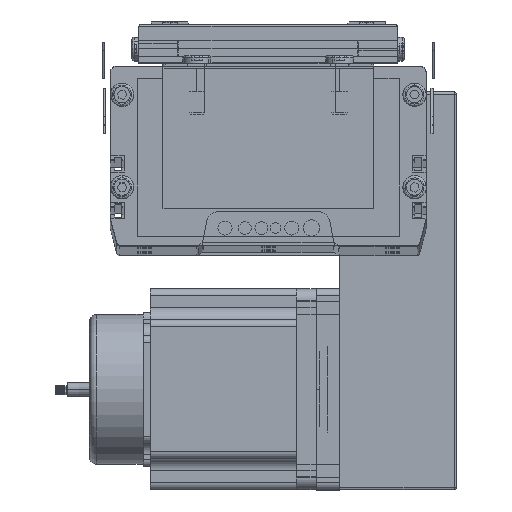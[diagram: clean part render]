
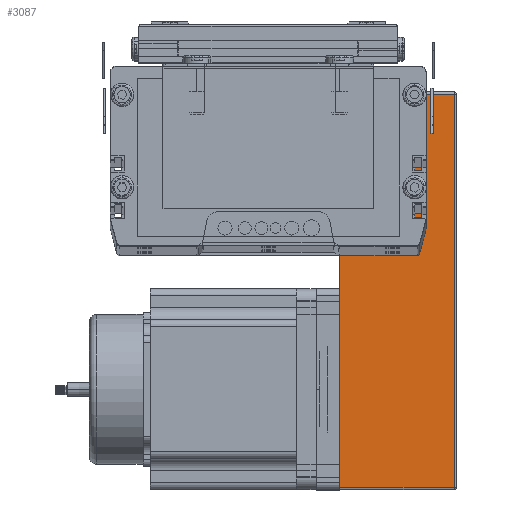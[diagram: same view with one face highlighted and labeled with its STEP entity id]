
A CAD part, top view. The second image highlights one B-rep face of the part: STEP entity #3087.
In plain terms, the highlighted planar face has unit normal (0, 0, 1) as drawn and (0, 1, 0) by its records, which use the part's own axes.
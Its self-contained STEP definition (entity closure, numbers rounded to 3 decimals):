
#2675 = VERTEX_POINT ( 'NONE', #57871 ) ;
#3044 = VERTEX_POINT ( 'NONE', #72851 ) ;
#3045 = ORIENTED_EDGE ( 'NONE', *, *, #3063, .T. ) ;
#3052 = EDGE_CURVE ( 'NONE', #3077, #3075, #72810, .T. ) ;
#3053 = VERTEX_POINT ( 'NONE', #73029 ) ;
#3055 = EDGE_CURVE ( 'NONE', #3088, #3077, #73072, .T. ) ;
#3057 = EDGE_CURVE ( 'NONE', #3053, #3044, #73207, .T. ) ;
#3058 = ORIENTED_EDGE ( 'NONE', *, *, #3055, .F. ) ;
#3060 = ORIENTED_EDGE ( 'NONE', *, *, #3191, .T. ) ;
#3062 = ORIENTED_EDGE ( 'NONE', *, *, #3329, .F. ) ;
#3063 = EDGE_CURVE ( 'NONE', #3081, #3053, #73205, .T. ) ;
#3075 = VERTEX_POINT ( 'NONE', #73093 ) ;
#3076 = EDGE_CURVE ( 'NONE', #3075, #3086, #73201, .T. ) ;
#3077 = VERTEX_POINT ( 'NONE', #73203 ) ;
#3080 = ORIENTED_EDGE ( 'NONE', *, *, #3076, .F. ) ;
#3081 = VERTEX_POINT ( 'NONE', #73096 ) ;
#3086 = VERTEX_POINT ( 'NONE', #73087 ) ;
#3087 = ADVANCED_FACE ( 'NONE', ( #73060 ), #73095, .F. ) ;
#3088 = VERTEX_POINT ( 'NONE', #73086 ) ;
#3191 = EDGE_CURVE ( 'NONE', #3044, #3216, #73429, .T. ) ;
#3215 = EDGE_CURVE ( 'NONE', #3216, #2675, #73333, .T. ) ;
#3216 = VERTEX_POINT ( 'NONE', #73370 ) ;
#3317 = ORIENTED_EDGE ( 'NONE', *, *, #3215, .T. ) ;
#3329 = EDGE_CURVE ( 'NONE', #3081, #3088, #73612, .T. ) ;
#3335 = ORIENTED_EDGE ( 'NONE', *, *, #3057, .T. ) ;
#3337 = ORIENTED_EDGE ( 'NONE', *, *, #3353, .F. ) ;
#3338 = EDGE_LOOP ( 'NONE', ( #3317, #3337, #3080, #3351, #3058, #3062, #3045, #3335, #3060 ) ) ;
#3351 = ORIENTED_EDGE ( 'NONE', *, *, #3052, .F. ) ;
#3353 = EDGE_CURVE ( 'NONE', #3086, #2675, #73719, .T. ) ;
#57871 = CARTESIAN_POINT ( 'NONE',  ( 85.9, 70., 0. ) ) ;
#72801 = DIRECTION ( 'NONE',  ( 1., 0., 0. ) ) ;
#72802 = VECTOR ( 'NONE', #72801, 1000. ) ;
#72803 = CARTESIAN_POINT ( 'NONE',  ( 0., 70., 0. ) ) ;
#72810 = LINE ( 'NONE', #72803, #72802 ) ;
#72851 = CARTESIAN_POINT ( 'NONE',  ( 169., 70., 49. ) ) ;
#73011 = VECTOR ( 'NONE', #73206, 1000. ) ;
#73012 = CARTESIAN_POINT ( 'NONE',  ( 0., 70., 49. ) ) ;
#73017 = DIRECTION ( 'NONE',  ( 0., -1., 0. ) ) ;
#73018 = CARTESIAN_POINT ( 'NONE',  ( 0., 70., 50. ) ) ;
#73029 = CARTESIAN_POINT ( 'NONE',  ( 1., 70., 49. ) ) ;
#73035 = VECTOR ( 'NONE', #73209, 1000. ) ;
#73060 = FACE_OUTER_BOUND ( 'NONE', #3338, .T. ) ;
#73071 = CARTESIAN_POINT ( 'NONE',  ( 0., 70., 0. ) ) ;
#73072 = LINE ( 'NONE', #73071, #73035 ) ;
#73075 = AXIS2_PLACEMENT_3D ( 'NONE', #73018, #73017, #73082 ) ;
#73082 = DIRECTION ( 'NONE',  ( 0., 0., -1. ) ) ;
#73086 = CARTESIAN_POINT ( 'NONE',  ( 5.418, 70., 0. ) ) ;
#73087 = CARTESIAN_POINT ( 'NONE',  ( 80.439, 70., 0. ) ) ;
#73093 = CARTESIAN_POINT ( 'NONE',  ( 74.961, 70., 0. ) ) ;
#73095 = PLANE ( 'NONE',  #73075 ) ;
#73096 = CARTESIAN_POINT ( 'NONE',  ( 1., 70., 0. ) ) ;
#73198 = DIRECTION ( 'NONE',  ( 1., 0., 0. ) ) ;
#73199 = VECTOR ( 'NONE', #73198, 1000. ) ;
#73200 = CARTESIAN_POINT ( 'NONE',  ( 0., 70., 0. ) ) ;
#73201 = LINE ( 'NONE', #73200, #73199 ) ;
#73203 = CARTESIAN_POINT ( 'NONE',  ( 10.902, 70., 0. ) ) ;
#73204 = CARTESIAN_POINT ( 'NONE',  ( 1., 70., 50. ) ) ;
#73205 = LINE ( 'NONE', #73204, #73230 ) ;
#73206 = DIRECTION ( 'NONE',  ( 1., 0., 0. ) ) ;
#73207 = LINE ( 'NONE', #73012, #73011 ) ;
#73209 = DIRECTION ( 'NONE',  ( 1., 0., 0. ) ) ;
#73214 = DIRECTION ( 'NONE',  ( 0., 0., 1. ) ) ;
#73230 = VECTOR ( 'NONE', #73214, 1000. ) ;
#73333 = LINE ( 'NONE', #73368, #73367 ) ;
#73346 = DIRECTION ( 'NONE',  ( -1., 0., 0. ) ) ;
#73367 = VECTOR ( 'NONE', #73346, 1000. ) ;
#73368 = CARTESIAN_POINT ( 'NONE',  ( 0., 70., 0. ) ) ;
#73370 = CARTESIAN_POINT ( 'NONE',  ( 169., 70., 0. ) ) ;
#73413 = DIRECTION ( 'NONE',  ( 0., 0., -1. ) ) ;
#73414 = VECTOR ( 'NONE', #73413, 1000. ) ;
#73428 = CARTESIAN_POINT ( 'NONE',  ( 169., 70., 50. ) ) ;
#73429 = LINE ( 'NONE', #73428, #73414 ) ;
#73558 = DIRECTION ( 'NONE',  ( 1., 0., 0. ) ) ;
#73559 = VECTOR ( 'NONE', #73558, 1000. ) ;
#73611 = CARTESIAN_POINT ( 'NONE',  ( 0., 70., 0. ) ) ;
#73612 = LINE ( 'NONE', #73611, #73872 ) ;
#73717 = CARTESIAN_POINT ( 'NONE',  ( 0., 70., 0. ) ) ;
#73719 = LINE ( 'NONE', #73717, #73559 ) ;
#73871 = DIRECTION ( 'NONE',  ( 1., 0., 0. ) ) ;
#73872 = VECTOR ( 'NONE', #73871, 1000. ) ;
